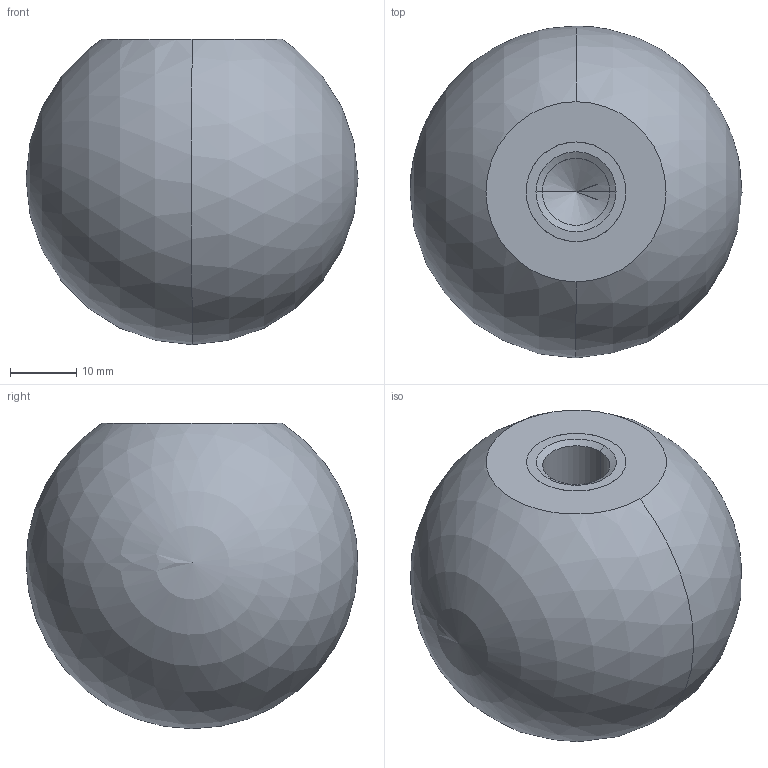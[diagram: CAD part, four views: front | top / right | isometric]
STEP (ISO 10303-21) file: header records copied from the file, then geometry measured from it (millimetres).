
FILE_DESCRIPTION (( 'STEP AP214' ), '1' );
FILE_NAME ('319-KU-50-M12-E.step', '2023-12-18T11:10:26', ( '' ), ( '' ), 'SwSTEP 2.0', 'SolidWorks 2022', '' );
FILE_SCHEMA (( 'AUTOMOTIVE_DESIGN' ));
Length unit declared in the file: millimetre
Products named in the file (1): 319-KU-50-M12-E
Bounding box: 50 x 49.99 x 46 mm (x, y, z)
Volume: 63368.7 mm3; surface area: 8122.7 mm2
Topology: 1 solids, 1 shells, 15 faces, 35 edges, 21 vertices
Faces by surface type: cylinder 6, cone 4, plane 3, sphere 2
Entity records: 495 total; most frequent: DIRECTION 78, CARTESIAN_POINT 62, ORIENTED_EDGE 56, AXIS2_PLACEMENT_3D 34, EDGE_CURVE 28, VERTEX_POINT 18, EDGE_LOOP 18, CIRCLE 18
